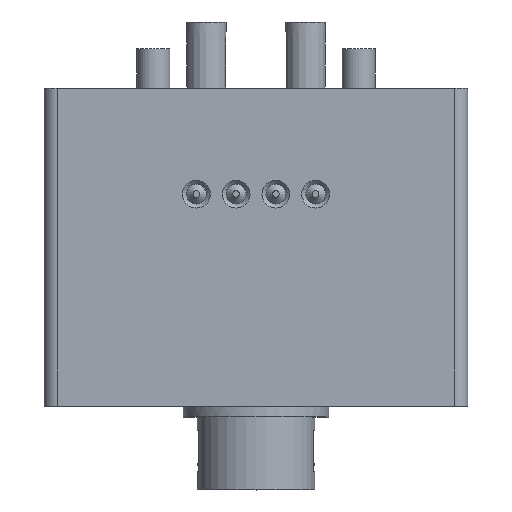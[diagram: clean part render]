
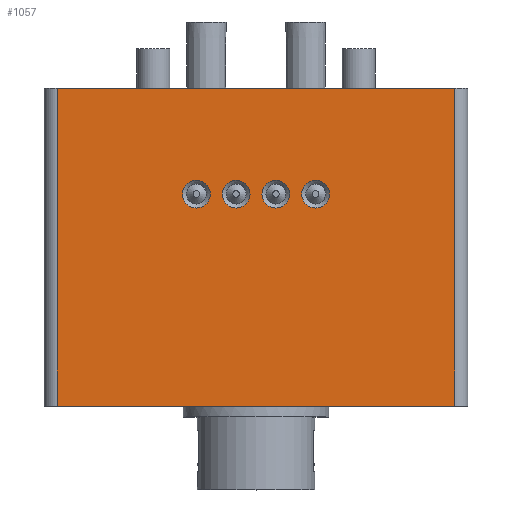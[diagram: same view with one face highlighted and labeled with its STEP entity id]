
A CAD part, top view. The second image highlights one B-rep face of the part: STEP entity #1057.
In plain terms, the highlighted planar face has unit normal (0, 0, 1).
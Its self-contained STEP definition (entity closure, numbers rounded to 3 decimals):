
#1057=ADVANCED_FACE('',(#2866,#2867,#2868,#2869,#2870),#2871,.T.);
#2866=FACE_BOUND('',#5429,.T.);
#2867=FACE_BOUND('',#5430,.T.);
#2868=FACE_BOUND('',#5431,.T.);
#2869=FACE_BOUND('',#5432,.T.);
#2870=FACE_OUTER_BOUND('',#5433,.T.);
#2871=PLANE('',#5434);
#5429=EDGE_LOOP('',(#9063));
#5430=EDGE_LOOP('',(#9064));
#5431=EDGE_LOOP('',(#9065));
#5432=EDGE_LOOP('',(#9066));
#5433=EDGE_LOOP('',(#9067,#9068,#9069,#9070));
#5434=AXIS2_PLACEMENT_3D('',#9071,#9072,#9073);
#9063=ORIENTED_EDGE('',*,*,#13754,.T.);
#9064=ORIENTED_EDGE('',*,*,#13755,.T.);
#9065=ORIENTED_EDGE('',*,*,#13756,.T.);
#9066=ORIENTED_EDGE('',*,*,#13757,.T.);
#9067=ORIENTED_EDGE('',*,*,#13496,.T.);
#9068=ORIENTED_EDGE('',*,*,#13701,.T.);
#9069=ORIENTED_EDGE('',*,*,#13758,.T.);
#9070=ORIENTED_EDGE('',*,*,#13759,.T.);
#9071=CARTESIAN_POINT('',(-16.0,-22.0,5.8));
#9072=DIRECTION('',(0.0,0.0,1.0));
#9073=DIRECTION('',(1.0,0.0,0.0));
#13496=EDGE_CURVE('',#15078,#15079,#15080,.T.);
#13701=EDGE_CURVE('',#15079,#15392,#15394,.T.);
#13754=EDGE_CURVE('',#15468,#15468,#15469,.T.);
#13755=EDGE_CURVE('',#15470,#15470,#15471,.T.);
#13756=EDGE_CURVE('',#15472,#15472,#15473,.T.);
#13757=EDGE_CURVE('',#15474,#15474,#15475,.T.);
#13758=EDGE_CURVE('',#15392,#15476,#15477,.T.);
#13759=EDGE_CURVE('',#15476,#15078,#15478,.T.);
#15078=VERTEX_POINT('',#17316);
#15079=VERTEX_POINT('',#17317);
#15080=LINE('',#17318,#17319);
#15392=VERTEX_POINT('',#17740);
#15394=LINE('',#17742,#17743);
#15468=VERTEX_POINT('',#17846);
#15469=CIRCLE('',#17847,1.05);
#15470=VERTEX_POINT('',#17848);
#15471=CIRCLE('',#17849,1.05);
#15472=VERTEX_POINT('',#17850);
#15473=CIRCLE('',#17851,1.05);
#15474=VERTEX_POINT('',#17852);
#15475=CIRCLE('',#17853,1.05);
#15476=VERTEX_POINT('',#17854);
#15477=LINE('',#17855,#17856);
#15478=LINE('',#17857,#17858);
#17316=CARTESIAN_POINT('',(15.0,-24.0,5.8));
#17317=CARTESIAN_POINT('',(15.0,0.0,5.8));
#17318=CARTESIAN_POINT('',(15.0,-5.,5.8));
#17319=VECTOR('',#20065,1.0);
#17740=CARTESIAN_POINT('',(-15.0,0.0,5.8));
#17742=CARTESIAN_POINT('',(16.0,0.0,5.8));
#17743=VECTOR('',#20304,1.0);
#17846=CARTESIAN_POINT('',(-3.45,-8.,5.8));
#17847=AXIS2_PLACEMENT_3D('',#20373,#20374,#20375);
#17848=CARTESIAN_POINT('',(-0.45,-8.,5.8));
#17849=AXIS2_PLACEMENT_3D('',#20376,#20377,#20378);
#17850=CARTESIAN_POINT('',(2.55,-8.,5.8));
#17851=AXIS2_PLACEMENT_3D('',#20379,#20380,#20381);
#17852=CARTESIAN_POINT('',(5.55,-8.,5.8));
#17853=AXIS2_PLACEMENT_3D('',#20382,#20383,#20384);
#17854=CARTESIAN_POINT('',(-15.0,-24.0,5.8));
#17855=CARTESIAN_POINT('',(-15.0,-22.0,5.8));
#17856=VECTOR('',#20385,1.0);
#17857=CARTESIAN_POINT('',(-16.0,-24.0,5.8));
#17858=VECTOR('',#20386,1.0);
#20065=DIRECTION('',(0.0,1.0,0.0));
#20304=DIRECTION('',(-1.0,0.0,0.0));
#20373=CARTESIAN_POINT('',(-4.5,-8.,5.8));
#20374=DIRECTION('',(0.0,0.0,-1.0));
#20375=DIRECTION('',(1.0,0.0,0.0));
#20376=CARTESIAN_POINT('',(-1.5,-8.,5.8));
#20377=DIRECTION('',(0.0,0.0,-1.0));
#20378=DIRECTION('',(1.0,0.0,0.0));
#20379=CARTESIAN_POINT('',(1.5,-8.,5.8));
#20380=DIRECTION('',(0.0,0.0,-1.0));
#20381=DIRECTION('',(1.0,0.0,0.0));
#20382=CARTESIAN_POINT('',(4.5,-8.,5.8));
#20383=DIRECTION('',(0.0,0.0,-1.0));
#20384=DIRECTION('',(1.0,0.0,0.0));
#20385=DIRECTION('',(0.0,-1.0,0.0));
#20386=DIRECTION('',(1.0,0.0,0.0));
